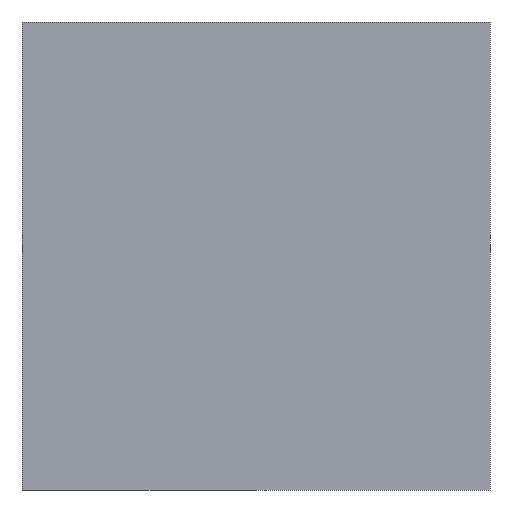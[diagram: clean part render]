
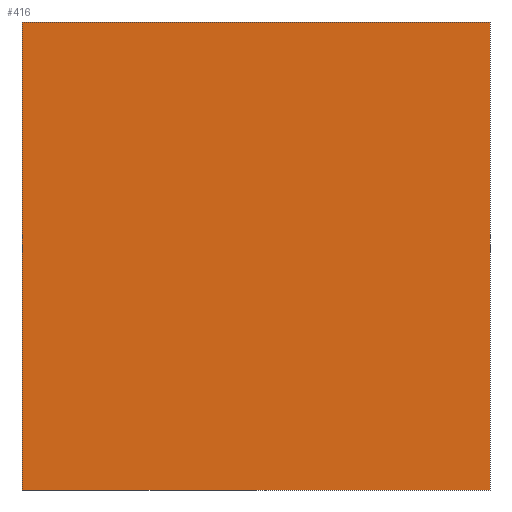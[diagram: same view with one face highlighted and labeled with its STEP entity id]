
A CAD part, left-side view. The second image highlights one B-rep face of the part: STEP entity #416.
In plain terms, the highlighted planar face has unit normal (-1, 0, 0).
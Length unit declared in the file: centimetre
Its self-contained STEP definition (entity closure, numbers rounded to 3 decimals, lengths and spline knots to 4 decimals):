
#32 = CARTESIAN_POINT ( 'NONE',  ( 0., 1000., 1000. ) ) ;
#44 = VECTOR ( 'NONE', #391, 100. ) ;
#53 = CARTESIAN_POINT ( 'NONE',  ( 0., 1000., 0. ) ) ;
#135 = VERTEX_POINT ( 'NONE', #278 ) ;
#143 = VECTOR ( 'NONE', #313, 100. ) ;
#194 = CARTESIAN_POINT ( 'NONE',  ( 0., 1000., 1000. ) ) ;
#215 = EDGE_CURVE ( 'NONE', #310, #277, #218, .T. ) ;
#218 = LINE ( 'NONE', #32, #44 ) ;
#222 = DIRECTION ( 'NONE',  ( 1., 0., 0. ) ) ;
#237 = CARTESIAN_POINT ( 'NONE',  ( 0., 0., 1000. ) ) ;
#250 = ORIENTED_EDGE ( 'NONE', *, *, #215, .F. ) ;
#267 = PLANE ( 'NONE',  #430 ) ;
#277 = VERTEX_POINT ( 'NONE', #237 ) ;
#278 = CARTESIAN_POINT ( 'NONE',  ( 0., 1000., 0. ) ) ;
#279 = LINE ( 'NONE', #483, #389 ) ;
#306 = FACE_OUTER_BOUND ( 'NONE', #565, .T. ) ;
#309 = CARTESIAN_POINT ( 'NONE',  ( 0., 1000., 1000. ) ) ;
#310 = VERTEX_POINT ( 'NONE', #319 ) ;
#313 = DIRECTION ( 'NONE',  ( 0., 0., -1. ) ) ;
#319 = CARTESIAN_POINT ( 'NONE',  ( 0., 1000., 1000. ) ) ;
#348 = CARTESIAN_POINT ( 'NONE',  ( 0., 0., 0. ) ) ;
#349 = ORIENTED_EDGE ( 'NONE', *, *, #461, .T. ) ;
#361 = ORIENTED_EDGE ( 'NONE', *, *, #362, .F. ) ;
#362 = EDGE_CURVE ( 'NONE', #277, #464, #279, .T. ) ;
#384 = EDGE_CURVE ( 'NONE', #310, #135, #487, .T. ) ;
#389 = VECTOR ( 'NONE', #456, 100. ) ;
#391 = DIRECTION ( 'NONE',  ( 0., -1., 0. ) ) ;
#394 = LINE ( 'NONE', #53, #519 ) ;
#403 = DIRECTION ( 'NONE',  ( 0., 0., -1. ) ) ;
#414 = ORIENTED_EDGE ( 'NONE', *, *, #384, .T. ) ;
#416 = ADVANCED_FACE ( 'NONE', ( #306 ), #267, .F. ) ;
#430 = AXIS2_PLACEMENT_3D ( 'NONE', #309, #222, #403 ) ;
#441 = DIRECTION ( 'NONE',  ( 0., -1., 0. ) ) ;
#456 = DIRECTION ( 'NONE',  ( 0., 0., -1. ) ) ;
#461 = EDGE_CURVE ( 'NONE', #135, #464, #394, .T. ) ;
#464 = VERTEX_POINT ( 'NONE', #348 ) ;
#483 = CARTESIAN_POINT ( 'NONE',  ( 0., 0., 1000. ) ) ;
#487 = LINE ( 'NONE', #194, #143 ) ;
#519 = VECTOR ( 'NONE', #441, 100. ) ;
#565 = EDGE_LOOP ( 'NONE', ( #349, #361, #250, #414 ) ) ;
